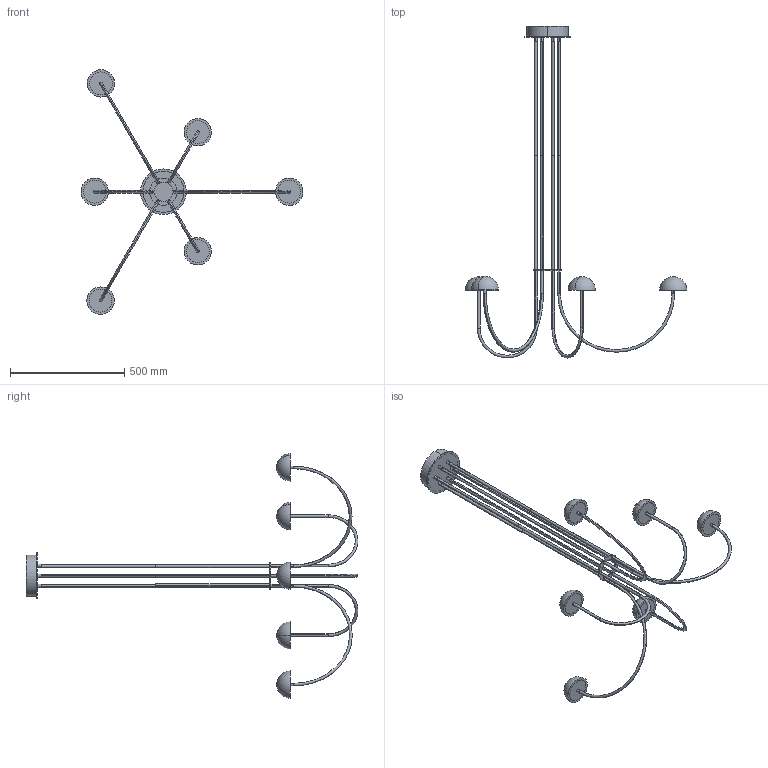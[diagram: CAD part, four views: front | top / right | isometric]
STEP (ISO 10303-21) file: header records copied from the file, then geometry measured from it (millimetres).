
FILE_DESCRIPTION (( 'STEP AP214' ), '1' );
FILE_NAME ('DUSSA_CU1307-6.STEP', '2026-06-05T07:23:16', ( '' ), ( '' ), 'SwSTEP 2.0', 'SolidWorks 2023', '' );
FILE_SCHEMA (( 'AUTOMOTIVE_DESIGN' ));
Length unit declared in the file: inch
Products named in the file (1): DUSSA_CU1307-6
Bounding box: 972 x 1454.04 x 1071.76 mm (x, y, z)
Volume: 5304968.2 mm3; surface area: 1001871.9 mm2
Topology: 38 solids, 38 shells, 247 faces, 498 edges, 328 vertices
Faces by surface type: cylinder 140, plane 83, torus 12, sphere 12
Entity records: 7600 total; most frequent: CARTESIAN_POINT 1830, DIRECTION 1208, ORIENTED_EDGE 948, AXIS2_PLACEMENT_3D 534, EDGE_CURVE 474, VERTEX_POINT 316, EDGE_LOOP 298, CIRCLE 286
